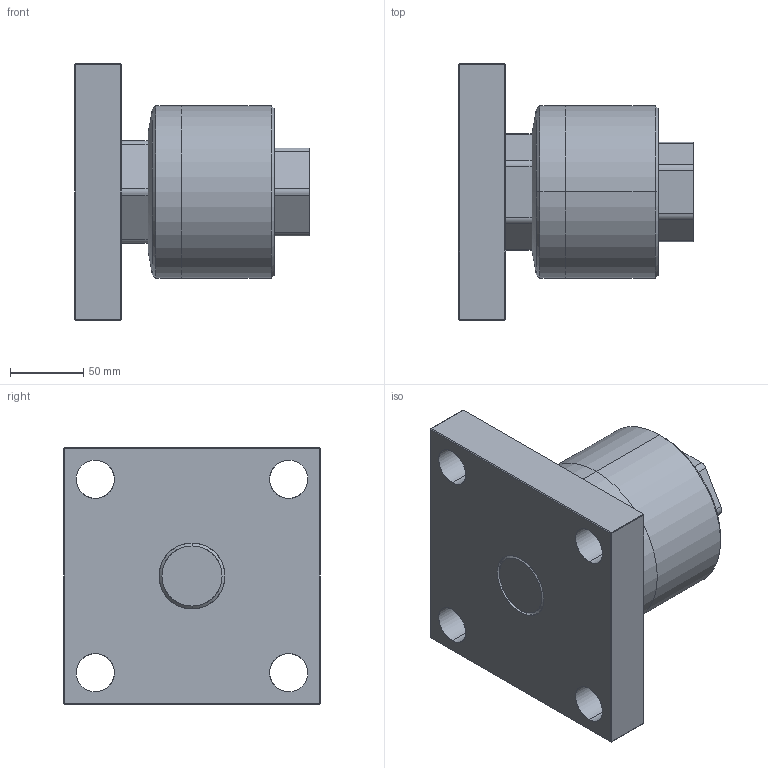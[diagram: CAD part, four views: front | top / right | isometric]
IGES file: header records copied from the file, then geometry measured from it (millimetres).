
Start section: SolidWorks IGES file using analytic representation for surfaces
Global section: file name: C:\Users\Toshiba\Desktop\FCM45-1.5-F.IGS; native system: SolidWorks 2014; preprocessor: SolidWorks 2014; author: Toshiba; date: 160414.100207; units: millimetre
Bounding box: 160 x 175 x 175 mm (x, y, z)
Surface area: 161185 mm2 (no closed solid volume)
Topology: 0 solids, 0 shells, 82 faces, 1168 edges, 1168 vertices
Faces by surface type: bspline 44, revolution 38
